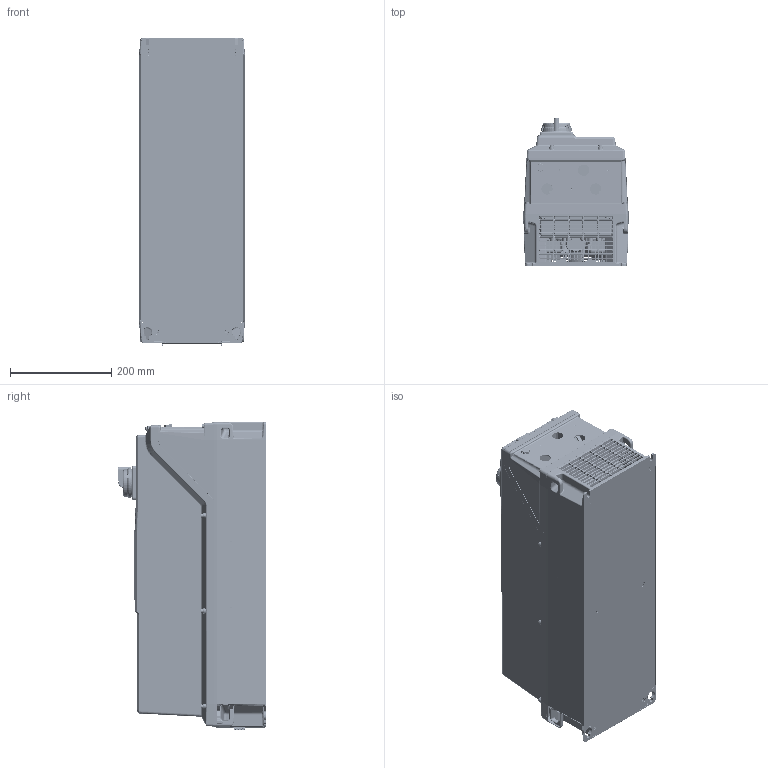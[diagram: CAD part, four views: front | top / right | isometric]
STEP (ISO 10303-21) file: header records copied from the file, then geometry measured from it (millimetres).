
FILE_DESCRIPTION((''),'2;1');
FILE_NAME('02_UL_SWITCH_FUSES_SW0001','2023-10-04T11:00:08',('USMAKAR'),(''),'CREO PARAMETRIC BY PTC INC, 2020281','CREO PARAMETRIC BY PTC INC, 2020281','');
FILE_SCHEMA(('CONFIG_CONTROL_DESIGN'));
Products named in the file (1): 02_UL_SWITCH_FUSES_SW0001
Bounding box: 208 x 292.13 x 606 mm (x, y, z)
Surface area: 2212106.2 mm2 (no closed solid volume)
Topology: 0 solids, 487 shells, 8604 faces, 34889 edges, 26179 vertices
Faces by surface type: cylinder 2769, plane 2383, bspline 1545, cone 774, torus 756, sphere 361, extrusion 16
Full cylindrical faces by diameter (mm): 4 x1
Entity records: 456967 total; most frequent: CARTESIAN_POINT 191947, ORIENTED_EDGE 51661, DIRECTION 48928, EDGE_CURVE 34826, VERTEX_POINT 26176, VECTOR 19042, LINE 19026, AXIS2_PLACEMENT_3D 14943
